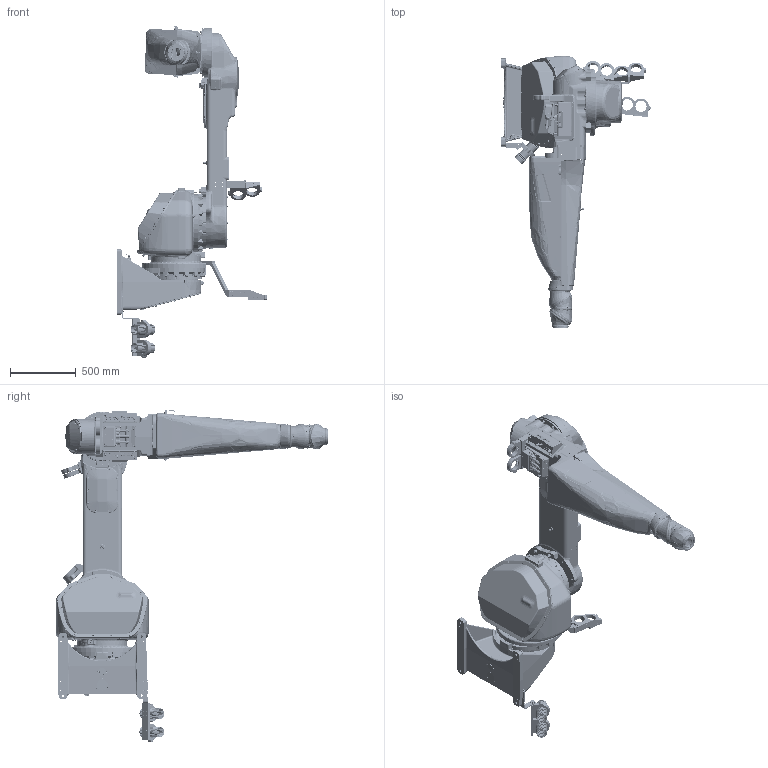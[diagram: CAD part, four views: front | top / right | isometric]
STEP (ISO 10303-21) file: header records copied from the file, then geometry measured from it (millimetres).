
FILE_DESCRIPTION (( 'STEP AP203' ), '1' );
FILE_NAME ('3HNA015450-001.STEP', '2015-04-29T12:21:06', ( 'ABB' ), ( 'ABB' ), 'SwSTEP 2.0', 'SolidWorks 2014', '' );
FILE_SCHEMA (( 'CONFIG_CONTROL_DESIGN' ));
Length unit declared in the file: millimetre
Products named in the file (119): 3HNA015848-001; 3HNA014250-001; 3HNA015378-001; 3HNA014256-001; 3HNA022611-001; 3HNP 04785-1_M16x50; 3HNP 04853-1_54; M014331; 3HNA014686-001; 3HNA014244-001; 3HNA014331-001; p042511; 3HNA014071-001_Plugged; 3HNA016161-001; 3HNA014783-001; 3HNA014257-001; 3HNA015708-001_M16x130; 3HNA014258-001; 3HNP 04722-1_M6x25; p002381; 3HNA019792-001; 3HNA015504-001; 3HNA014696-001; 3HNA014461-001; 3HNA015048-001; 3HNA014616-001; p018611; 3HNP 04720-1_M6x16; m068391; 3HNA007769-001; M115531; 3HNA014253-001_Vulcanized; 3HNA022613-001; p002391; 3HNA018372-001; p001811; 3HNA014695-001; 3HNA014247-001; 3HNA019856-001; 3HNA014711-001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
Assembly tree (252 placements, depth 5):
  3HNA015450-001
    3HNA015449-001_KONFIG B
      3HNA015111-001
      3HNA008125-001
      3HNA015429-001
      3HNP 04682-1_M6x20  x9
      3HNA008286-001
      M014331
      3HNA015504-001
      p001811
      3HNP 04680-1_M6x12  x3
      3HNA023104-001
      3HNA015469-001
      3HNP 04922-1  x4
      3HNP 04763-1_M10x55  x4
      3HNP 04785-1_M16x50  x12
      p002381  x4
      p002391  x4
      3HNA003308-001_M12x1,5
      3HNP 04858-1_M8x10
    3HNM 13622-1
    3HNA008449-001
    3HNA015378-001
    3HNA015708-001_M16x130  x3
    M115531  x2
    3HNA015848-001_LEFT
      3HNA015843-001
      M115531
      3HNP 04721-1_M6x20
      3HNA003474-001_M12x65  x2
      p000841
    3HNA015848-001
      3HNA015843-001
      3HNA003474-001_M12x65  x2
      p000841
      M115531
      3HNP 04721-1_M6x20
    3HNA014783-001
    m068391
    p008531
    3HNP 04680-1_M6x12  x2
    3HNA015869-001
      3HNA015866-001
      M115531
      3HNP 04742-1_M8X45  x2
      3HNP 04721-1_M6x20
    3HNA015862-001
      3HNA015852-001
      M115531
      3HNP 04721-1_M6x20
      3HNP 04742-1_M8X45  x2
    3HNA015479-001  x2
      3HNA014071-001_Plugged
      p018611
      p014321
      p019491
      m064551
      p041951
    3HNA013719-001
      3HNA014234-001
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Bounding box: 1141.76 x 2073.44 x 2531.72 mm (x, y, z)
Volume: 73969145.7 mm3; surface area: 16856217.2 mm2
Topology: 398 solids, 725 shells, 18091 faces, 48528 edges, 31544 vertices
Faces by surface type: plane 6163, cylinder 4403, bspline 3155, cone 2206, torus 1814, sphere 350
Full cylindrical faces by diameter (mm): 0.6 x5, 1.7 x3, 2 x12, 2.4 x1, 2.5 x27, 2.6 x2, 2.7 x14, 3 x58, 3.1 x2, 3.2 x8, 3.3 x22, 3.5 x12, 3.8 x3, 3.9 x2, 4 x14, 4.2 x34, 4.5 x2, 4.917 x1, 5 x133, 5.2 x3, 5.5 x16, 5.9 x21, 5.99 x3, 6 x143, 6.05 x2, 6.2 x2, 6.3 x2, 6.5 x61, 6.6 x12, 6.8 x68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
Entity records: 899855 total; most frequent: CARTESIAN_POINT 578076, ORIENTED_EDGE 61003, DIRECTION 57080, EDGE_CURVE 33805, VERTEX_POINT 24032, AXIS2_PLACEMENT_3D 23034, EDGE_LOOP 18772, FACE_OUTER_BOUND 15774
